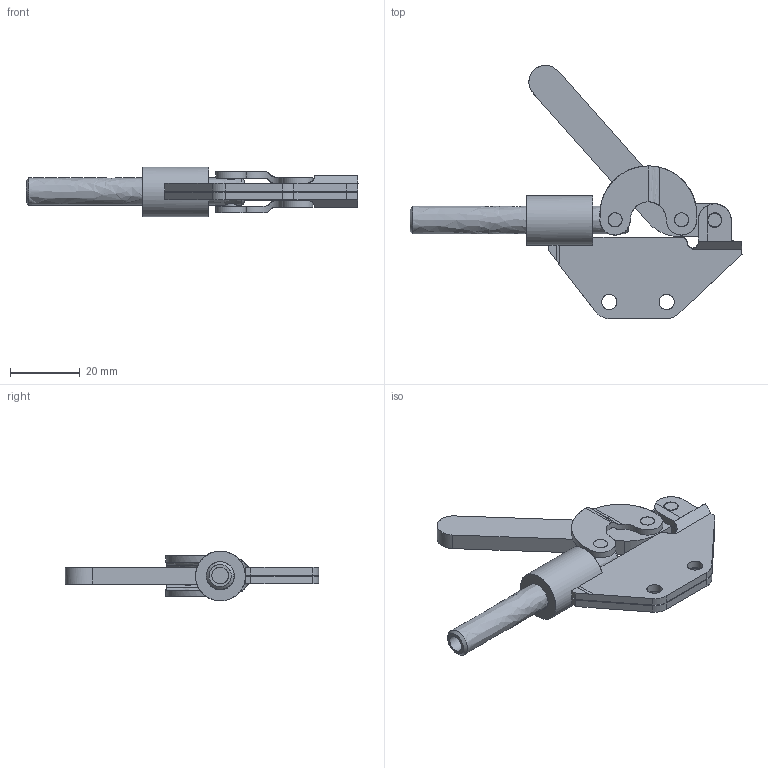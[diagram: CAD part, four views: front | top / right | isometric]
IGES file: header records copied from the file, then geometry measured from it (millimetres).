
Start section:  Autodesk DirectConnect version 7.0.27.0 ---- IGES version 5.3
Global section: file name: C:\Users\Nick\Desktop\PHL-251\3D\PHL-251.igs; native system: Autodesk DirectConnect 7.0.27.0; preprocessor: 7.0.27.0; author: Nick; organization: Unknown; date: 20150529.122642; units: inch
Bounding box: 95.25 x 72.67 x 14.29 mm (x, y, z)
Surface area: 12840.9 mm2 (no closed solid volume)
Topology: 0 solids, 0 shells, 197 faces, 1371 edges, 1364 vertices
Faces by surface type: bspline 197
